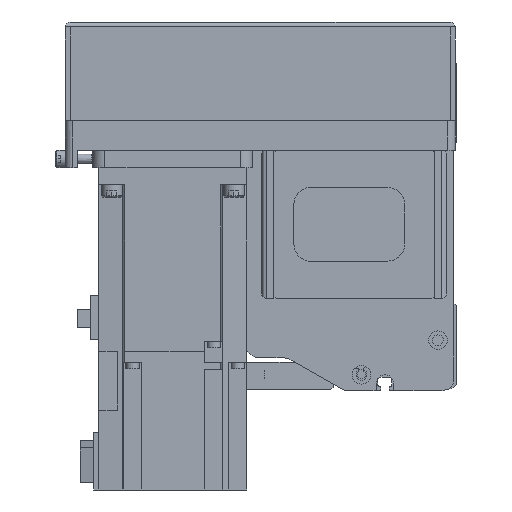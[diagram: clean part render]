
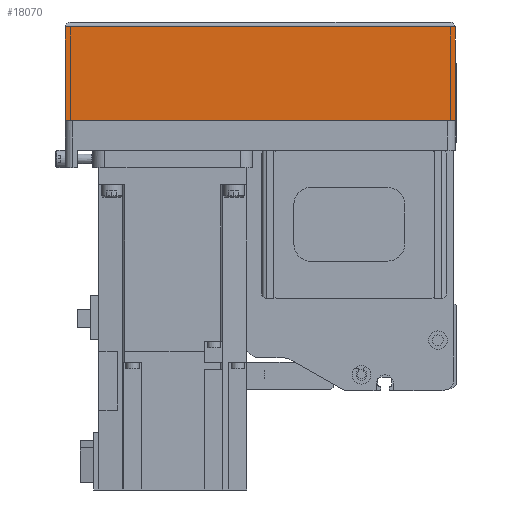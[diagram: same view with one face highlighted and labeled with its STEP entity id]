
A CAD part, left-side view. The second image highlights one B-rep face of the part: STEP entity #18070.
In plain terms, the highlighted planar face has unit normal (-1, 0, 0) as drawn and (0, 1, 0) by its records, which use the part's own axes.
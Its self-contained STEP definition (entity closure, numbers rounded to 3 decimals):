
#2802=ORIENTED_EDGE('',*,*,#7247,.F.);
#2803=ORIENTED_EDGE('',*,*,#7316,.F.);
#2804=ORIENTED_EDGE('',*,*,#7264,.T.);
#2805=ORIENTED_EDGE('',*,*,#7239,.T.);
#7239=EDGE_CURVE('',#9648,#9647,#11493,.T.);
#7247=EDGE_CURVE('',#9655,#9647,#11501,.T.);
#7264=EDGE_CURVE('',#9665,#9648,#11514,.T.);
#7316=EDGE_CURVE('',#9665,#9655,#11543,.T.);
#9647=VERTEX_POINT('',#27722);
#9648=VERTEX_POINT('',#27724);
#9655=VERTEX_POINT('',#27741);
#9665=VERTEX_POINT('',#27772);
#11493=LINE('',#27723,#13143);
#11501=LINE('',#27740,#13151);
#11514=LINE('',#27771,#13164);
#11543=LINE('',#27866,#13193);
#13143=VECTOR('',#22185,1000.);
#13151=VECTOR('',#22197,1000.);
#13164=VECTOR('',#22226,1000.);
#13193=VECTOR('',#22343,1000.);
#14670=EDGE_LOOP('',(#2802,#2803,#2804,#2805));
#16080=FACE_BOUND('',#14670,.T.);
#17319=PLANE('',#19383);
#18070=ADVANCED_FACE('',(#16080),#17319,.T.);
#19383=AXIS2_PLACEMENT_3D('',#27865,#22341,#22342);
#22185=DIRECTION('',(1.,0.,0.));
#22197=DIRECTION('',(0.,0.,1.));
#22226=DIRECTION('',(0.,0.,1.));
#22341=DIRECTION('',(0.,1.,0.));
#22342=DIRECTION('',(0.,0.,1.));
#22343=DIRECTION('',(1.,0.,0.));
#27722=CARTESIAN_POINT('',(0.,39.,-12.1));
#27723=CARTESIAN_POINT('',(-158.,39.,-12.1));
#27724=CARTESIAN_POINT('',(-158.,39.,-12.1));
#27740=CARTESIAN_POINT('',(0.,39.,-50.));
#27741=CARTESIAN_POINT('',(0.,39.,-50.));
#27771=CARTESIAN_POINT('',(-158.,39.,-50.));
#27772=CARTESIAN_POINT('',(-158.,39.,-50.));
#27865=CARTESIAN_POINT('',(-158.,39.,-50.));
#27866=CARTESIAN_POINT('',(-158.,39.,-50.));
